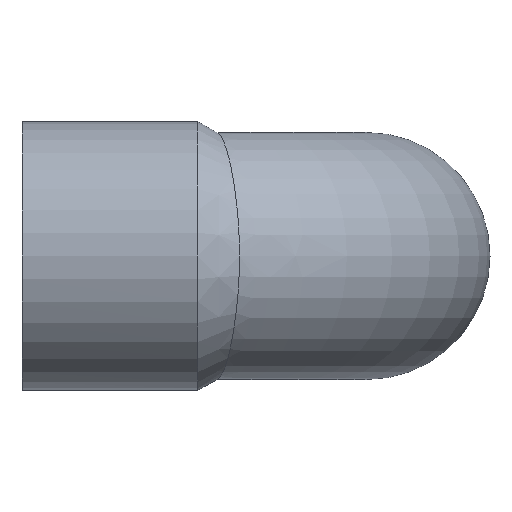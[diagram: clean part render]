
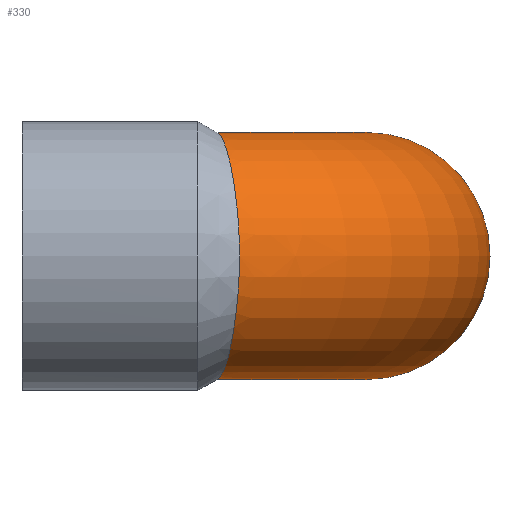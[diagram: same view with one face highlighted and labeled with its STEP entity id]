
A CAD part, front view. The second image highlights one B-rep face of the part: STEP entity #330.
In plain terms, the highlighted toroidal (fillet/blend) face has major radius 16.5 mm and minor radius 9 mm.
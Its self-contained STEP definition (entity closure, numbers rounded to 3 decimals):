
#112=CARTESIAN_POINT('',(25.5,0.,0.));
#113=VERTEX_POINT('',#112);
#114=CARTESIAN_POINT('',(16.5,0.,0.0));
#115=DIRECTION('',(0.0,-1.0,0.0));
#116=DIRECTION('',(1.0,0.0,0.0));
#117=AXIS2_PLACEMENT_3D('',#114,#115,#116);
#118=CIRCLE('',#117,9.0);
#119=EDGE_CURVE('',#113,#113,#118,.T.);
#226=CARTESIAN_POINT('',(4.214,-7.973,5.002));
#227=VERTEX_POINT('',#226);
#228=CARTESIAN_POINT('',(4.214,-7.973,-5.002));
#229=VERTEX_POINT('',#228);
#230=CARTESIAN_POINT('',(4.214,-7.973,5.002));
#231=CARTESIAN_POINT('',(4.295,-8.379,5.596));
#232=CARTESIAN_POINT('',(4.386,-8.854,6.139));
#233=CARTESIAN_POINT('',(4.585,-9.935,7.115));
#234=CARTESIAN_POINT('',(4.693,-10.54,7.543));
#235=CARTESIAN_POINT('',(4.975,-12.168,8.423));
#236=CARTESIAN_POINT('',(5.152,-13.235,8.771));
#237=CARTESIAN_POINT('',(5.511,-15.428,9.066));
#238=CARTESIAN_POINT('',(5.691,-16.538,9.013));
#239=CARTESIAN_POINT('',(6.052,-18.691,8.505));
#240=CARTESIAN_POINT('',(6.231,-19.715,8.051));
#241=CARTESIAN_POINT('',(6.577,-21.56,6.769));
#242=CARTESIAN_POINT('',(6.742,-22.358,5.946));
#243=CARTESIAN_POINT('',(7.026,-23.613,4.02));
#244=CARTESIAN_POINT('',(7.141,-24.051,2.931));
#245=CARTESIAN_POINT('',(7.262,-24.5,0.638));
#246=CARTESIAN_POINT('',(7.264,-24.506,-0.545));
#247=CARTESIAN_POINT('',(7.149,-24.08,-2.844));
#248=CARTESIAN_POINT('',(7.036,-23.652,-3.939));
#249=CARTESIAN_POINT('',(6.749,-22.394,-5.911));
#250=CARTESIAN_POINT('',(6.579,-21.573,-6.764));
#251=CARTESIAN_POINT('',(6.215,-19.633,-8.104));
#252=CARTESIAN_POINT('',(6.025,-18.534,-8.572));
#253=CARTESIAN_POINT('',(5.635,-16.195,-9.057));
#254=CARTESIAN_POINT('',(5.438,-14.977,-9.062));
#255=CARTESIAN_POINT('',(5.045,-12.592,-8.594));
#256=CARTESIAN_POINT('',(4.853,-11.447,-8.119));
#257=CARTESIAN_POINT('',(4.502,-9.466,-6.787));
#258=CARTESIAN_POINT('',(4.345,-8.63,-5.962));
#259=CARTESIAN_POINT('',(4.214,-7.973,-5.002));
#260=B_SPLINE_CURVE_WITH_KNOTS('',3,(#230,#231,#232,#233,#234,#235,#236,#237,#238,#239,#240,#241,#242,#243,#244,#245,#246,#247,#248,#249,#250,#251,#252,#253,#254,#255,#256,#257,#258,#259),.UNSPECIFIED.,.F.,.U.,(4,2,2,2,2,2,2,2,2,2,2,2,2,2,4),(-4.652,-4.435,-4.212,-3.874,-3.54,-3.202,-2.858,-2.507,-2.156,-1.805,-1.449,-1.089,-0.723,-0.351,0.0),.UNSPECIFIED.);
#261=EDGE_CURVE('',#227,#229,#260,.T.);
#279=CARTESIAN_POINT('',(4.214,-7.973,-5.002));
#280=CARTESIAN_POINT('',(4.002,-7.563,-4.312));
#281=CARTESIAN_POINT('',(3.848,-7.233,-3.561));
#282=CARTESIAN_POINT('',(3.634,-6.765,-1.975));
#283=CARTESIAN_POINT('',(3.576,-6.631,-1.147));
#284=CARTESIAN_POINT('',(3.548,-6.568,0.855));
#285=CARTESIAN_POINT('',(3.621,-6.741,2.016));
#286=CARTESIAN_POINT('',(3.894,-7.329,3.776));
#287=CARTESIAN_POINT('',(4.033,-7.622,4.411));
#288=CARTESIAN_POINT('',(4.214,-7.973,5.002));
#289=B_SPLINE_CURVE_WITH_KNOTS('',3,(#279,#280,#281,#282,#283,#284,#285,#286,#287,#288),.UNSPECIFIED.,.F.,.U.,(4,2,2,2,4),(-1.062,-0.813,-0.562,-0.213,0.0),.UNSPECIFIED.);
#290=EDGE_CURVE('',#229,#227,#289,.T.);
#318=CARTESIAN_POINT('',(0.0,0.0,0.0));
#319=DIRECTION('',(0.0,0.0,1.0));
#320=DIRECTION('',(1.0,0.0,0.0));
#321=AXIS2_PLACEMENT_3D('',#318,#319,#320);
#322=TOROIDAL_SURFACE('',#321,16.5,9.0);
#323=ORIENTED_EDGE('',*,*,#119,.T.);
#324=EDGE_LOOP('',(#323));
#325=FACE_OUTER_BOUND('',#324,.T.);
#326=ORIENTED_EDGE('',*,*,#261,.T.);
#327=ORIENTED_EDGE('',*,*,#290,.T.);
#328=EDGE_LOOP('',(#326,#327));
#329=FACE_BOUND('',#328,.T.);
#330=ADVANCED_FACE('',(#325,#329),#322,.T.);
